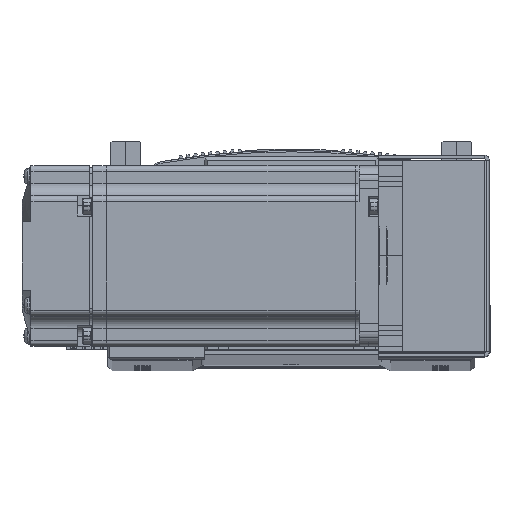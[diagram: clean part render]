
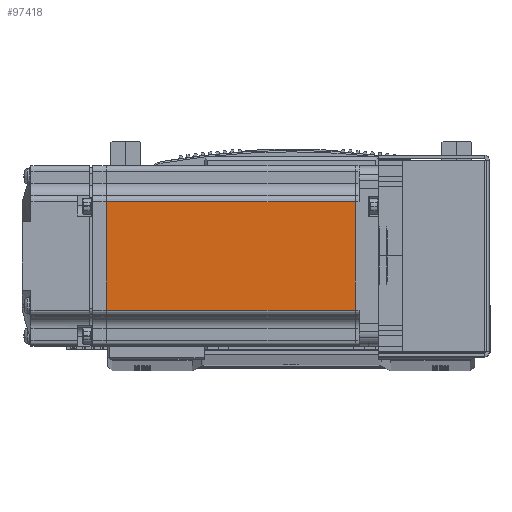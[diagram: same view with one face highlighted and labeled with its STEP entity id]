
A CAD part, top view. The second image highlights one B-rep face of the part: STEP entity #97418.
In plain terms, the highlighted planar face has unit normal (0, 0, 1) as drawn and (0, 1, 0) by its records, which use the part's own axes.
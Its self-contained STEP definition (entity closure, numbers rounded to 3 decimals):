
#4569 = PLANE ( 'NONE',  #5798 ) ;
#4672 = DIRECTION ( 'NONE',  ( 0., 0., 1. ) ) ;
#4702 = CARTESIAN_POINT ( 'NONE',  ( -6.5, 30., 25. ) ) ;
#4707 = DIRECTION ( 'NONE',  ( 0., 1., 0. ) ) ;
#5798 = AXIS2_PLACEMENT_3D ( 'NONE', #4702, #4707, #4672 ) ;
#6393 = ORIENTED_EDGE ( 'NONE', *, *, #77158, .F. ) ;
#6462 = ORIENTED_EDGE ( 'NONE', *, *, #77159, .T. ) ;
#6474 = ORIENTED_EDGE ( 'NONE', *, *, #77221, .T. ) ;
#6481 = ORIENTED_EDGE ( 'NONE', *, *, #77085, .T. ) ;
#18035 = FACE_OUTER_BOUND ( 'NONE', #61956, .T. ) ;
#19258 = VECTOR ( 'NONE', #25715, 1000. ) ;
#19270 = LINE ( 'NONE', #25737, #19258 ) ;
#19318 = VECTOR ( 'NONE', #25859, 1000. ) ;
#19322 = VECTOR ( 'NONE', #25836, 1000. ) ;
#19367 = LINE ( 'NONE', #25862, #19322 ) ;
#19371 = LINE ( 'NONE', #25857, #19318 ) ;
#19385 = VECTOR ( 'NONE', #25979, 1000. ) ;
#19388 = LINE ( 'NONE', #25986, #19385 ) ;
#25715 = DIRECTION ( 'NONE',  ( 1., 0., 0. ) ) ;
#25737 = CARTESIAN_POINT ( 'NONE',  ( -6.5, 30., 18. ) ) ;
#25836 = DIRECTION ( 'NONE',  ( 0., 0., 1. ) ) ;
#25857 = CARTESIAN_POINT ( 'NONE',  ( -90.45, 30., 0. ) ) ;
#25859 = DIRECTION ( 'NONE',  ( 0., 0., 1. ) ) ;
#25862 = CARTESIAN_POINT ( 'NONE',  ( -7.75, 30., 0. ) ) ;
#25979 = DIRECTION ( 'NONE',  ( -1., 0., 0. ) ) ;
#25986 = CARTESIAN_POINT ( 'NONE',  ( -6.5, 30., -18. ) ) ;
#28928 = CARTESIAN_POINT ( 'NONE',  ( -90.45, 30., 18. ) ) ;
#29063 = CARTESIAN_POINT ( 'NONE',  ( -90.45, 30., -18. ) ) ;
#29076 = CARTESIAN_POINT ( 'NONE',  ( -7.75, 30., -18. ) ) ;
#30227 = CARTESIAN_POINT ( 'NONE',  ( -7.75, 30., 18. ) ) ;
#61956 = EDGE_LOOP ( 'NONE', ( #6393, #6474, #6462, #6481 ) ) ;
#73607 = VERTEX_POINT ( 'NONE', #30227 ) ;
#73738 = VERTEX_POINT ( 'NONE', #28928 ) ;
#73831 = VERTEX_POINT ( 'NONE', #29063 ) ;
#73854 = VERTEX_POINT ( 'NONE', #29076 ) ;
#77085 = EDGE_CURVE ( 'NONE', #73738, #73607, #19270, .T. ) ;
#77158 = EDGE_CURVE ( 'NONE', #73854, #73607, #19367, .T. ) ;
#77159 = EDGE_CURVE ( 'NONE', #73831, #73738, #19371, .T. ) ;
#77221 = EDGE_CURVE ( 'NONE', #73854, #73831, #19388, .T. ) ;
#97418 = ADVANCED_FACE ( 'NONE', ( #18035 ), #4569, .T. ) ;
